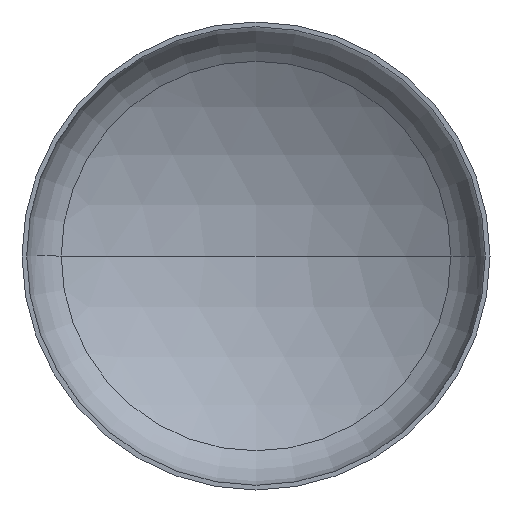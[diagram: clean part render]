
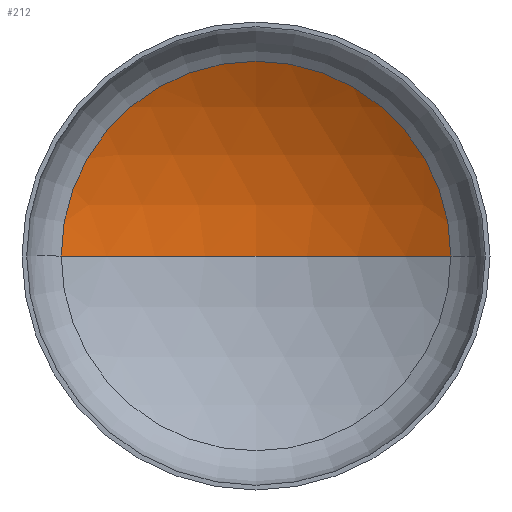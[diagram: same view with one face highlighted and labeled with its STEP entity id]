
A CAD part, front view. The second image highlights one B-rep face of the part: STEP entity #212.
In plain terms, the highlighted spherical face has radius 6400 mm.
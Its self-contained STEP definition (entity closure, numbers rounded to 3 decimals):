
#12 = CARTESIAN_POINT ( 'NONE',  ( 0., -4295.065, 0. ) ) ;
#23 = DIRECTION ( 'NONE',  ( -1., 0., 0. ) ) ;
#27 = DIRECTION ( 'NONE',  ( 0., 0., -1. ) ) ;
#29 = CARTESIAN_POINT ( 'NONE',  ( 0., -4295.065, 0. ) ) ;
#33 = DIRECTION ( 'NONE',  ( 0., -1., 0. ) ) ;
#34 = CARTESIAN_POINT ( 'NONE',  ( 0., 1170.393, 0. ) ) ;
#40 = DIRECTION ( 'NONE',  ( 1., 0., 0. ) ) ;
#44 = CIRCLE ( 'NONE', #87, 6400. ) ;
#87 = AXIS2_PLACEMENT_3D ( 'NONE', #12, #138, #154 ) ;
#92 = AXIS2_PLACEMENT_3D ( 'NONE', #29, #27, #23 ) ;
#101 = AXIS2_PLACEMENT_3D ( 'NONE', #34, #33, #40 ) ;
#109 = CARTESIAN_POINT ( 'NONE',  ( -3329.981, 1170.393, 0. ) ) ;
#119 = AXIS2_PLACEMENT_3D ( 'NONE', #407, #141, #296 ) ;
#138 = DIRECTION ( 'NONE',  ( 0., 0., 1. ) ) ;
#141 = DIRECTION ( 'NONE',  ( 0., 0., -1. ) ) ;
#154 = DIRECTION ( 'NONE',  ( 1., 0., 0. ) ) ;
#161 = CARTESIAN_POINT ( 'NONE',  ( 3329.981, 1170.393, 0. ) ) ;
#183 = ORIENTED_EDGE ( 'NONE', *, *, #235, .T. ) ;
#212 = ADVANCED_FACE ( 'NONE', ( #379 ), #315, .F. ) ;
#230 = EDGE_CURVE ( 'NONE', #344, #317, #370, .T. ) ;
#235 = EDGE_CURVE ( 'NONE', #261, #344, #307, .T. ) ;
#236 = EDGE_CURVE ( 'NONE', #261, #317, #44, .T. ) ;
#258 = EDGE_LOOP ( 'NONE', ( #380, #183, #391 ) ) ;
#261 = VERTEX_POINT ( 'NONE', #263 ) ;
#263 = CARTESIAN_POINT ( 'NONE',  ( 0., 2104.935, 0. ) ) ;
#296 = DIRECTION ( 'NONE',  ( -1., 0., 0. ) ) ;
#307 = CIRCLE ( 'NONE', #92, 6400. ) ;
#315 = SPHERICAL_SURFACE ( 'NONE', #119, 6400. ) ;
#317 = VERTEX_POINT ( 'NONE', #109 ) ;
#344 = VERTEX_POINT ( 'NONE', #161 ) ;
#370 = CIRCLE ( 'NONE', #101, 3329.981 ) ;
#379 = FACE_OUTER_BOUND ( 'NONE', #258, .T. ) ;
#380 = ORIENTED_EDGE ( 'NONE', *, *, #236, .F. ) ;
#391 = ORIENTED_EDGE ( 'NONE', *, *, #230, .T. ) ;
#407 = CARTESIAN_POINT ( 'NONE',  ( 0., -4295.065, 0. ) ) ;
